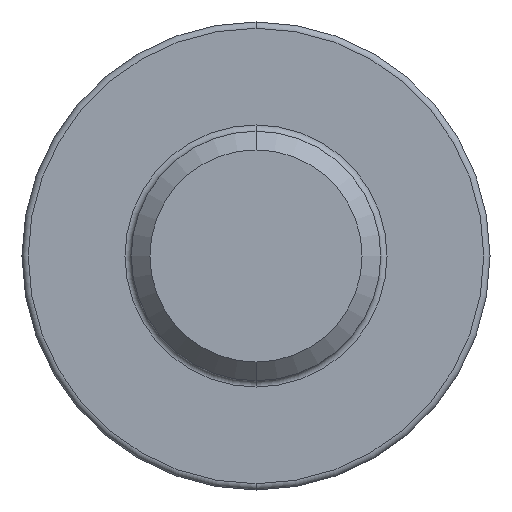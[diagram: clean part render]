
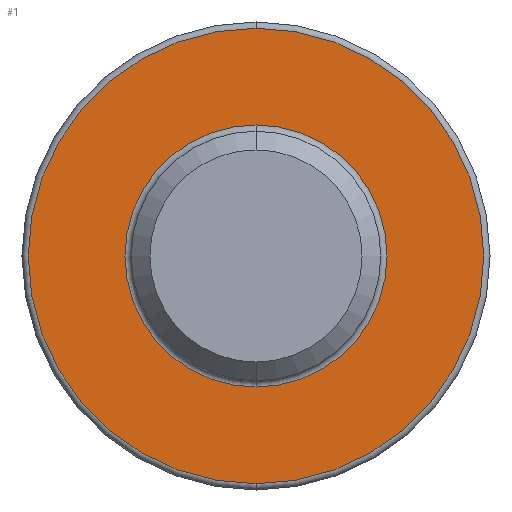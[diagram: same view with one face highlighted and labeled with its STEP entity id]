
A CAD part, front view. The second image highlights one B-rep face of the part: STEP entity #1.
In plain terms, the highlighted planar face has unit normal (0, -1, 0).
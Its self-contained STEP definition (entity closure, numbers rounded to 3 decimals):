
#1 = ADVANCED_FACE ( 'NONE', ( #744, #288 ), #282, .F. ) ;
#4 = VERTEX_POINT ( 'NONE', #81 ) ;
#5 = CARTESIAN_POINT ( 'NONE',  ( 0., -2.4, 0. ) ) ;
#49 = DIRECTION ( 'NONE',  ( 0., 0., 1. ) ) ;
#77 = VERTEX_POINT ( 'NONE', #781 ) ;
#81 = CARTESIAN_POINT ( 'NONE',  ( 0., -2.4, 3.65 ) ) ;
#116 = EDGE_CURVE ( 'NONE', #505, #4, #259, .T. ) ;
#117 = DIRECTION ( 'NONE',  ( 0., 1., 0. ) ) ;
#126 = CIRCLE ( 'NONE', #698, 2.1 ) ;
#139 = EDGE_CURVE ( 'NONE', #77, #521, #126, .T. ) ;
#169 = ORIENTED_EDGE ( 'NONE', *, *, #720, .T. ) ;
#174 = EDGE_LOOP ( 'NONE', ( #857, #357 ) ) ;
#186 = AXIS2_PLACEMENT_3D ( 'NONE', #250, #839, #308 ) ;
#187 = DIRECTION ( 'NONE',  ( 0., -1., 0. ) ) ;
#250 = CARTESIAN_POINT ( 'NONE',  ( 0., -2.4, 0. ) ) ;
#259 = CIRCLE ( 'NONE', #823, 3.65 ) ;
#278 = DIRECTION ( 'NONE',  ( 0., 1., 0. ) ) ;
#282 = PLANE ( 'NONE',  #468 ) ;
#288 = FACE_OUTER_BOUND ( 'NONE', #174, .T. ) ;
#308 = DIRECTION ( 'NONE',  ( 0., 0., 1. ) ) ;
#315 = CARTESIAN_POINT ( 'NONE',  ( 0., -2.4, -3.65 ) ) ;
#357 = ORIENTED_EDGE ( 'NONE', *, *, #116, .T. ) ;
#452 = EDGE_LOOP ( 'NONE', ( #644, #169 ) ) ;
#468 = AXIS2_PLACEMENT_3D ( 'NONE', #810, #278, #541 ) ;
#480 = EDGE_CURVE ( 'NONE', #4, #505, #509, .T. ) ;
#505 = VERTEX_POINT ( 'NONE', #315 ) ;
#509 = CIRCLE ( 'NONE', #186, 3.65 ) ;
#521 = VERTEX_POINT ( 'NONE', #577 ) ;
#541 = DIRECTION ( 'NONE',  ( 0., 0., 1. ) ) ;
#566 = CARTESIAN_POINT ( 'NONE',  ( 0., -2.4, 0. ) ) ;
#577 = CARTESIAN_POINT ( 'NONE',  ( 0., -2.4, -2.1 ) ) ;
#644 = ORIENTED_EDGE ( 'NONE', *, *, #139, .T. ) ;
#667 = DIRECTION ( 'NONE',  ( 0., 1., 0. ) ) ;
#698 = AXIS2_PLACEMENT_3D ( 'NONE', #566, #117, #826 ) ;
#720 = EDGE_CURVE ( 'NONE', #521, #77, #864, .T. ) ;
#744 = FACE_BOUND ( 'NONE', #452, .T. ) ;
#760 = CARTESIAN_POINT ( 'NONE',  ( 0., -2.4, 0. ) ) ;
#781 = CARTESIAN_POINT ( 'NONE',  ( 0., -2.4, 2.1 ) ) ;
#804 = DIRECTION ( 'NONE',  ( 0., 0., 1. ) ) ;
#810 = CARTESIAN_POINT ( 'NONE',  ( 2., -2.4, 0. ) ) ;
#823 = AXIS2_PLACEMENT_3D ( 'NONE', #760, #187, #49 ) ;
#826 = DIRECTION ( 'NONE',  ( 0., 0., 1. ) ) ;
#832 = AXIS2_PLACEMENT_3D ( 'NONE', #5, #667, #804 ) ;
#839 = DIRECTION ( 'NONE',  ( 0., -1., 0. ) ) ;
#857 = ORIENTED_EDGE ( 'NONE', *, *, #480, .T. ) ;
#864 = CIRCLE ( 'NONE', #832, 2.1 ) ;
